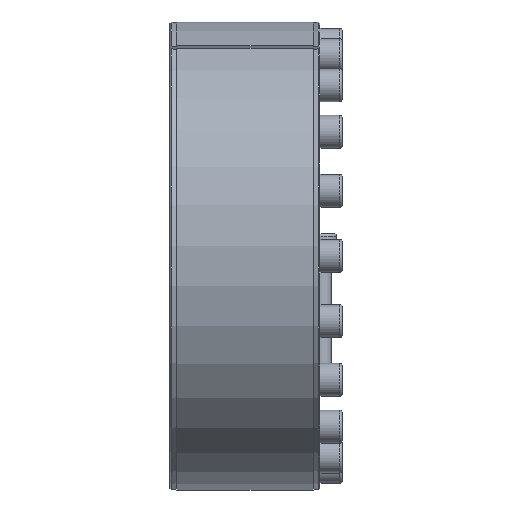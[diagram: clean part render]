
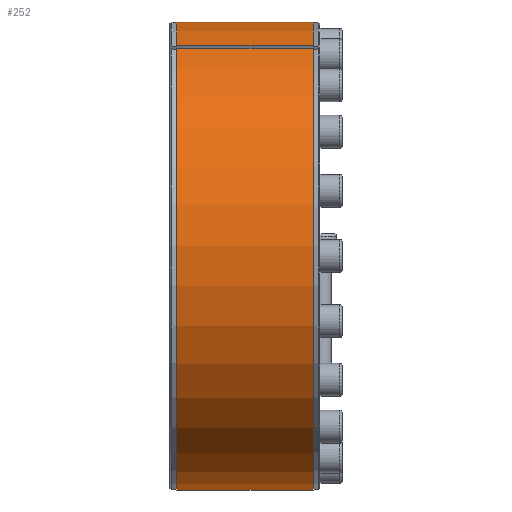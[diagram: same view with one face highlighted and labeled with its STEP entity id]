
A CAD part, left-side view. The second image highlights one B-rep face of the part: STEP entity #252.
In plain terms, the highlighted cylindrical face has radius 212.5 mm (diameter 425 mm), a partial arc.
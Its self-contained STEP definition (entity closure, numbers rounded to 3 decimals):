
#252 = ADVANCED_FACE( '', ( #654 ), #655, .T. );
#654 = FACE_OUTER_BOUND( '', #1146, .T. );
#655 = CYLINDRICAL_SURFACE( '', #1147, 212.5 );
#1146 = EDGE_LOOP( '', ( #1888, #1889, #1890, #1891 ) );
#1147 = AXIS2_PLACEMENT_3D( '', #1892, #1893, #1894 );
#1888 = ORIENTED_EDGE( '', *, *, #2168, .T. );
#1889 = ORIENTED_EDGE( '', *, *, #2214, .T. );
#1890 = ORIENTED_EDGE( '', *, *, #2309, .F. );
#1891 = ORIENTED_EDGE( '', *, *, #2380, .T. );
#1892 = CARTESIAN_POINT( '', ( 0., -60., 0. ) );
#1893 = DIRECTION( '', ( 0., 1., 0. ) );
#1894 = DIRECTION( '', ( 0., 0., -1. ) );
#2168 = EDGE_CURVE( '', #2520, #2518, #2521, .T. );
#2214 = EDGE_CURVE( '', #2518, #2606, #2608, .T. );
#2309 = EDGE_CURVE( '', #2762, #2606, #2763, .T. );
#2380 = EDGE_CURVE( '', #2762, #2520, #2872, .F. );
#2518 = VERTEX_POINT( '', #3109 );
#2520 = VERTEX_POINT( '', #3112 );
#2521 = CIRCLE( '', #3113, 212.5 );
#2606 = VERTEX_POINT( '', #3234 );
#2608 = LINE( '', #3237, #3238 );
#2762 = VERTEX_POINT( '', #3414 );
#2763 = CIRCLE( '', #3415, 212.5 );
#2872 = LINE( '', #3544, #3545 );
#3109 = CARTESIAN_POINT( '', ( -94.015, 130., 190.572 ) );
#3112 = CARTESIAN_POINT( '', ( -98.915, 130., 188.075 ) );
#3113 = AXIS2_PLACEMENT_3D( '', #3691, #3692, #3693 );
#3234 = CARTESIAN_POINT( '', ( -94.015, 6., 190.572 ) );
#3237 = CARTESIAN_POINT( '', ( -94.015, -60., 190.572 ) );
#3238 = VECTOR( '', #3773, 1000. );
#3414 = CARTESIAN_POINT( '', ( -98.915, 6., 188.075 ) );
#3415 = AXIS2_PLACEMENT_3D( '', #3943, #3944, #3945 );
#3544 = CARTESIAN_POINT( '', ( -98.915, -60., 188.075 ) );
#3545 = VECTOR( '', #4065, 1000. );
#3691 = CARTESIAN_POINT( '', ( 0., 130., 0. ) );
#3692 = DIRECTION( '', ( 0., -1., 0. ) );
#3693 = DIRECTION( '', ( 0., 0., -1. ) );
#3773 = DIRECTION( '', ( 0., -1., 0. ) );
#3943 = CARTESIAN_POINT( '', ( 0., 6., 0. ) );
#3944 = DIRECTION( '', ( 0., -1., 0. ) );
#3945 = DIRECTION( '', ( 0., 0., -1. ) );
#4065 = DIRECTION( '', ( 0., -1., 0. ) );
